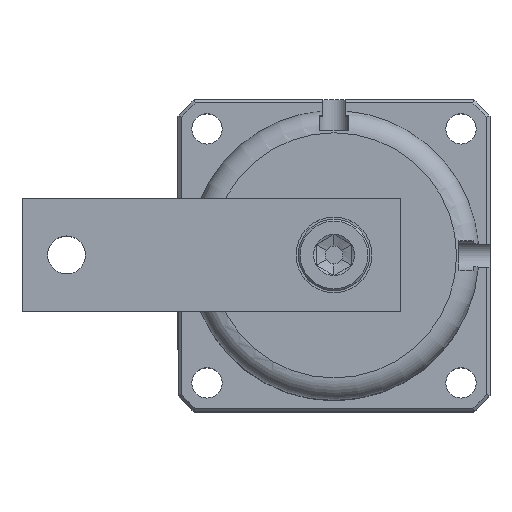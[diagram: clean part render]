
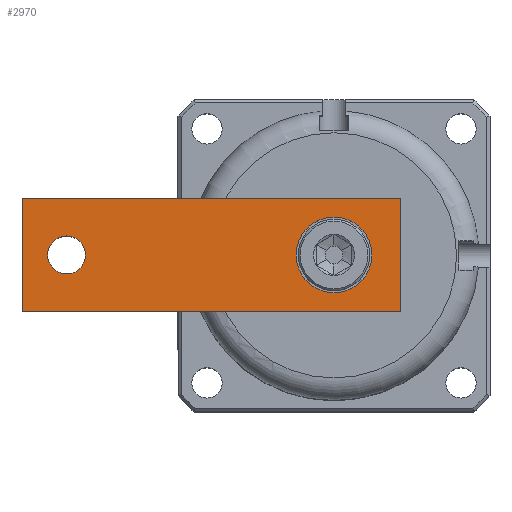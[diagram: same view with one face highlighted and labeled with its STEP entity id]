
A CAD part, top view. The second image highlights one B-rep face of the part: STEP entity #2970.
In plain terms, the highlighted planar face has unit normal (0, 0, 1).
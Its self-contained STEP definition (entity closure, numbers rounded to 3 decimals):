
#136=LINE('',#4412,#244);
#140=LINE('',#4421,#248);
#143=LINE('',#4427,#251);
#146=LINE('',#4433,#254);
#244=VECTOR('',#3698,1000.);
#248=VECTOR('',#3704,1000.);
#251=VECTOR('',#3709,1000.);
#254=VECTOR('',#3714,1000.);
#408=PLANE('',#3205);
#837=ORIENTED_EDGE('',*,*,#1152,.F.);
#838=ORIENTED_EDGE('',*,*,#1153,.F.);
#839=ORIENTED_EDGE('',*,*,#1138,.T.);
#840=ORIENTED_EDGE('',*,*,#1142,.T.);
#841=ORIENTED_EDGE('',*,*,#1145,.T.);
#842=ORIENTED_EDGE('',*,*,#1148,.T.);
#1138=EDGE_CURVE('',#1341,#1342,#136,.T.);
#1142=EDGE_CURVE('',#1342,#1345,#140,.T.);
#1145=EDGE_CURVE('',#1345,#1347,#143,.T.);
#1148=EDGE_CURVE('',#1347,#1341,#146,.T.);
#1152=EDGE_CURVE('',#1351,#1351,#1459,.T.);
#1153=EDGE_CURVE('',#1352,#1352,#1460,.T.);
#1341=VERTEX_POINT('',#4413);
#1342=VERTEX_POINT('',#4414);
#1345=VERTEX_POINT('',#4422);
#1347=VERTEX_POINT('',#4428);
#1351=VERTEX_POINT('',#4442);
#1352=VERTEX_POINT('',#4444);
#1459=CIRCLE('',#3206,4.25);
#1460=CIRCLE('',#3207,8.5);
#1634=EDGE_LOOP('',(#837));
#1635=EDGE_LOOP('',(#838));
#1636=EDGE_LOOP('',(#839,#840,#841,#842));
#1833=FACE_BOUND('',#1634,.T.);
#1834=FACE_BOUND('',#1635,.T.);
#1835=FACE_BOUND('',#1636,.T.);
#2970=ADVANCED_FACE('',(#1833,#1834,#1835),#408,.T.);
#3205=AXIS2_PLACEMENT_3D('',#4440,#3722,#3723);
#3206=AXIS2_PLACEMENT_3D('',#4441,#3724,#3725);
#3207=AXIS2_PLACEMENT_3D('',#4443,#3726,#3727);
#3698=DIRECTION('',(0.,1.,0.));
#3704=DIRECTION('',(-1.,0.,0.));
#3709=DIRECTION('',(0.,-1.,0.));
#3714=DIRECTION('',(1.,0.,0.));
#3722=DIRECTION('',(0.,0.,1.));
#3723=DIRECTION('',(0.,-1.,0.));
#3724=DIRECTION('',(0.,0.,1.));
#3725=DIRECTION('',(1.,0.,0.));
#3726=DIRECTION('',(0.,0.,1.));
#3727=DIRECTION('',(1.,0.,0.));
#4412=CARTESIAN_POINT('',(42.5,0.,12.7));
#4413=CARTESIAN_POINT('',(42.5,0.,12.7));
#4414=CARTESIAN_POINT('',(42.5,25.4,12.7));
#4421=CARTESIAN_POINT('',(42.5,25.4,12.7));
#4422=CARTESIAN_POINT('',(-42.5,25.4,12.7));
#4427=CARTESIAN_POINT('',(-42.5,25.4,12.7));
#4428=CARTESIAN_POINT('',(-42.5,0.,12.7));
#4433=CARTESIAN_POINT('',(-42.5,0.,12.7));
#4440=CARTESIAN_POINT('',(0.,0.,12.7));
#4441=CARTESIAN_POINT('',(-32.5,12.7,12.7));
#4442=CARTESIAN_POINT('',(-28.25,12.7,12.7));
#4443=CARTESIAN_POINT('',(27.5,12.7,12.7));
#4444=CARTESIAN_POINT('',(36.,12.7,12.7));
